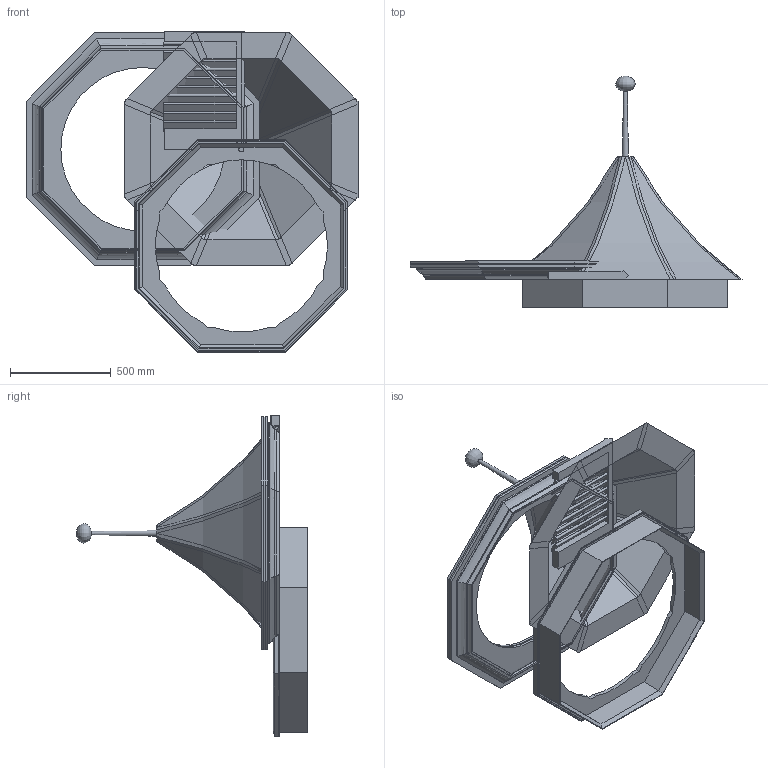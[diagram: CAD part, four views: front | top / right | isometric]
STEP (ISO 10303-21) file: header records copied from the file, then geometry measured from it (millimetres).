
FILE_DESCRIPTION(/* description */ ('Alibre Inc.'),/* implementation_level */ '2;1');
FILE_NAME(/* name */ 'export0',/* time_stamp */ '2010-12-21T21:21:03-06:00',/* author */ (''),/* organization */ (''),/* preprocessor_version */ 'ST-DEVELOPER v12',/* originating_system */ 'Alibre',/* authorisation */ '');
FILE_SCHEMA (('ALIBRE_SCHEMA','CONFIG_CONTROL_DESIGN'));
Length unit declared in the file: centimetre
Products named in the file (9): ID_1
Bounding box: 1649.46 x 1148.68 x 1592.41 mm (x, y, z)
Volume: 147395317.2 mm3; surface area: 10862170.3 mm2
Topology: 15 solids, 16 shells, 442 faces, 1080 edges, 673 vertices
Faces by surface type: plane 357, cylinder 41, extrusion 24, bspline 16, cone 2, revolution 1, torus 1
Full cylindrical faces by diameter (mm): 0.077 x1, 25.4 x2, 812.8 x2
Entity records: 31524 total; most frequent: CARTESIAN_POINT 4837, DIRECTION 2616, ORIENTED_EDGE 2154, REFERENCEDEPENDENTUV 1698, VECTOR 1684, CONSTRAINTPAIRUV 1441, LINE 1295, PERSISTANTTOPOLOGYATTRIBUTE 1286
